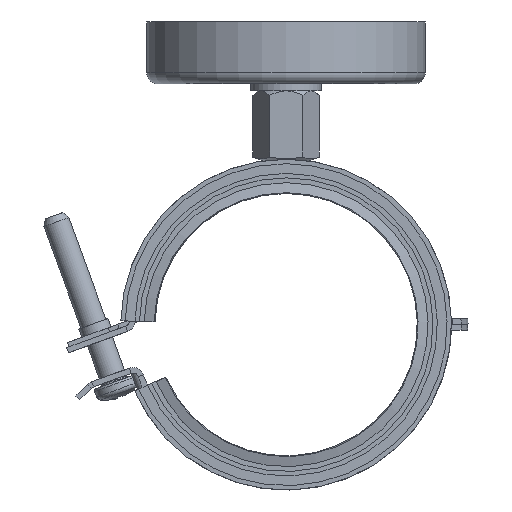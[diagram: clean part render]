
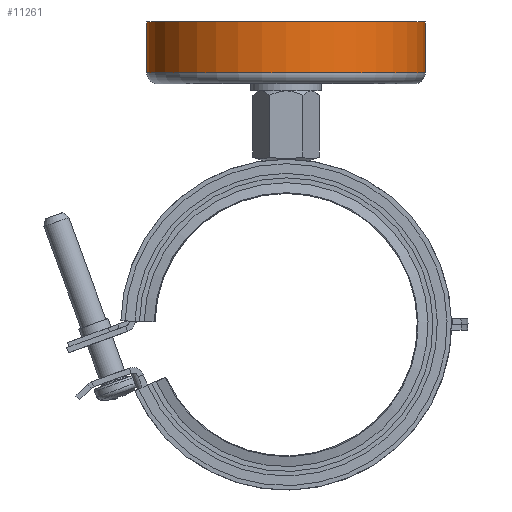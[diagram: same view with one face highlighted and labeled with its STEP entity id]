
A CAD part, front view. The second image highlights one B-rep face of the part: STEP entity #11261.
In plain terms, the highlighted cylindrical face has radius 31.5 mm (diameter 63 mm), a full revolution.
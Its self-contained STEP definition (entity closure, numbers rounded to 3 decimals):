
#1141=FACE_OUTER_BOUND('',#1752,.T.);
#1752=EDGE_LOOP('',(#9898,#9899,#9900,#9901,#9902));
#2299=CIRCLE('',#12379,31.5);
#2302=CIRCLE('',#12382,31.5);
#2303=CIRCLE('',#12384,31.5);
#3285=LINE('',#20340,#4167);
#4167=VECTOR('',#15451,31.5);
#5161=VERTEX_POINT('',#20330);
#5162=VERTEX_POINT('',#20331);
#5164=VERTEX_POINT('',#20338);
#6743=EDGE_CURVE('',#5161,#5162,#2299,.T.);
#6746=EDGE_CURVE('',#5162,#5161,#2302,.T.);
#6747=EDGE_CURVE('',#5164,#5164,#2303,.T.);
#6748=EDGE_CURVE('',#5164,#5161,#3285,.T.);
#9898=ORIENTED_EDGE('',*,*,#6747,.F.);
#9899=ORIENTED_EDGE('',*,*,#6748,.T.);
#9900=ORIENTED_EDGE('',*,*,#6746,.F.);
#9901=ORIENTED_EDGE('',*,*,#6743,.F.);
#9902=ORIENTED_EDGE('',*,*,#6748,.F.);
#10096=CYLINDRICAL_SURFACE('',#12383,31.5);
#11261=ADVANCED_FACE('',(#1141),#10096,.T.);
#12379=AXIS2_PLACEMENT_3D('',#20332,#15439,#15440);
#12382=AXIS2_PLACEMENT_3D('',#20336,#15445,#15446);
#12383=AXIS2_PLACEMENT_3D('',#20337,#15447,#15448);
#12384=AXIS2_PLACEMENT_3D('',#20339,#15449,#15450);
#15439=DIRECTION('center_axis',(0.,0.,
-1.));
#15440=DIRECTION('ref_axis',(-1.,0.,0.));
#15445=DIRECTION('center_axis',(0.,0.,
-1.));
#15446=DIRECTION('ref_axis',(-1.,0.,0.));
#15447=DIRECTION('center_axis',(0.,0.,
1.));
#15448=DIRECTION('ref_axis',(1.,0.,0.));
#15449=DIRECTION('center_axis',(0.,0.,
1.));
#15450=DIRECTION('ref_axis',(-1.,0.,0.));
#15451=DIRECTION('',(0.,0.,-1.));
#20330=CARTESIAN_POINT('',(-31.5,0.,-11.5));
#20331=CARTESIAN_POINT('',(0.,-31.5,-11.5));
#20332=CARTESIAN_POINT('Origin',(0.,0.,
-11.5));
#20336=CARTESIAN_POINT('Origin',(0.,0.,
-11.5));
#20337=CARTESIAN_POINT('Origin',(0.,0.,
-7.));
#20338=CARTESIAN_POINT('',(-31.5,0.,0.));
#20339=CARTESIAN_POINT('Origin',(0.,0.,0.));
#20340=CARTESIAN_POINT('',(-31.5,0.,-7.));
